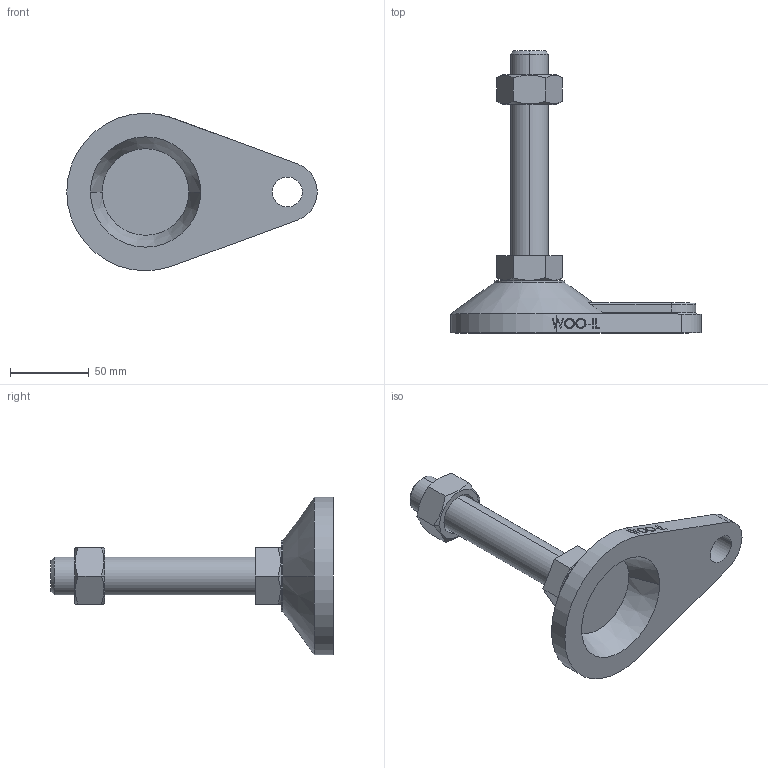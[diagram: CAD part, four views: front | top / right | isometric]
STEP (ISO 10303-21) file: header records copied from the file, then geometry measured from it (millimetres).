
FILE_DESCRIPTION (( 'STEP AP214' ), '1' );
FILE_NAME ('PAD-A100-M24-130.step', '2021-03-08T08:08:34', ( '' ), ( '' ), 'SwSTEP 2.0', 'SolidWorks 2019', '' );
FILE_SCHEMA (( 'AUTOMOTIVE_DESIGN' ));
Length unit declared in the file: millimetre
Products named in the file (2): PAD-A100-M24-130
Bounding box: 159 x 179 x 100 mm (x, y, z)
Volume: 255387.7 mm3; surface area: 51483.3 mm2
Topology: 3 solids, 3 shells, 112 faces, 271 edges, 174 vertices
Faces by surface type: plane 61, cylinder 17, cone 16, bspline 16, torus 2
Entity records: 4831 total; most frequent: CARTESIAN_POINT 2257, ORIENTED_EDGE 542, DIRECTION 462, EDGE_CURVE 271, VERTEX_POINT 174, LINE 156, VECTOR 156, AXIS2_PLACEMENT_3D 153
